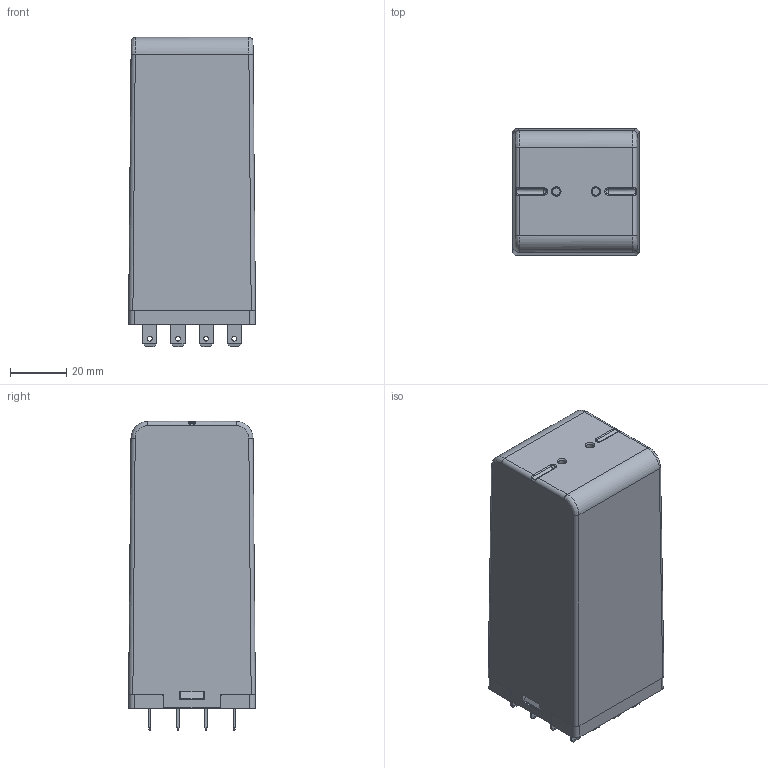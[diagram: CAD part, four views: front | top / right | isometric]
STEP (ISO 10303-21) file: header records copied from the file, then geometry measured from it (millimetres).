
FILE_DESCRIPTION(/* description */ (''),/* implementation_level */ '2;1');
FILE_NAME(/* name */ 'I:\TI\Inventor\Panelen\Faivelay RER Paris\New\B400-F.stp',/* time_stamp */ '2018-10-11T16:06:14+02:00',/* author */ ('NBinnendijk'),/* organization */ (''),/* preprocessor_version */ 'ST-DEVELOPER v17',/* originating_system */ 'Autodesk Inventor 2019',/* authorisation */ '');
FILE_SCHEMA (('AUTOMOTIVE_DESIGN { 1 0 10303 214 3 1 1 }'));
Length unit declared in the file: millimetre
Products named in the file (1): B400-F
Bounding box: 45.04 x 45 x 109.7 mm (x, y, z)
Volume: 42926.8 mm3; surface area: 48156.7 mm2
Topology: 1 solids, 1 shells, 909 faces, 2644 edges, 1646 vertices
Faces by surface type: plane 744, cylinder 145, bspline 10, torus 6, cone 2, sphere 2
Full cylindrical faces by diameter (mm): 1.6 x16, 1.7 x16, 2.625 x2, 3.1 x4, 3.15 x4, 3.5 x4, 7 x2
Entity records: 31167 total; most frequent: CARTESIAN_POINT 6734, ORIENTED_EDGE 5284, DIRECTION 4764, EDGE_CURVE 2642, LINE 2304, VECTOR 2304, VERTEX_POINT 1646, AXIS2_PLACEMENT_3D 1230
